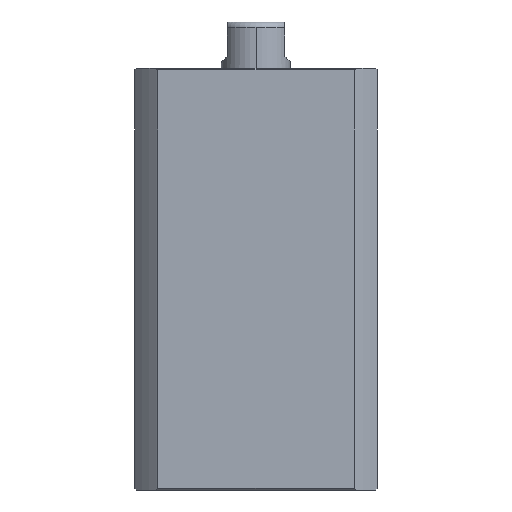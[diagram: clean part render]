
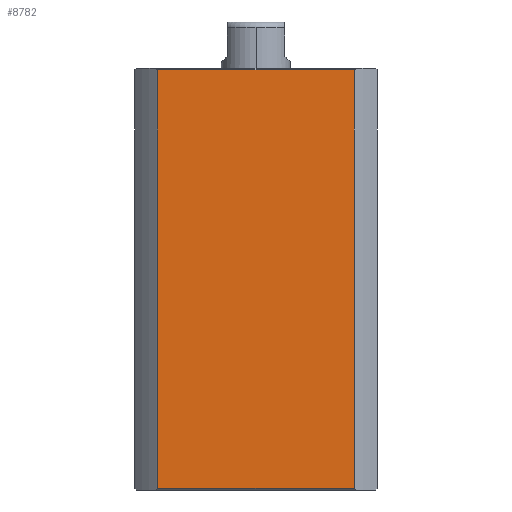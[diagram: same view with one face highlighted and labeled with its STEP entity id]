
A CAD part, left-side view. The second image highlights one B-rep face of the part: STEP entity #8782.
In plain terms, the highlighted planar face has unit normal (-1, 0, 0).
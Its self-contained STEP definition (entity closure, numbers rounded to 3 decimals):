
#115 = LINE ( 'NONE', #9373, #9804 ) ;
#299 = DIRECTION ( 'NONE',  ( 0., 1., 0. ) ) ;
#586 = CARTESIAN_POINT ( 'NONE',  ( -21., 21., 0.3 ) ) ;
#1346 = ORIENTED_EDGE ( 'NONE', *, *, #2514, .T. ) ;
#1382 = VECTOR ( 'NONE', #2469, 1000. ) ;
#1415 = EDGE_CURVE ( 'NONE', #8759, #8276, #115, .T. ) ;
#1637 = LINE ( 'NONE', #9596, #11366 ) ;
#2469 = DIRECTION ( 'NONE',  ( 0., -1., 0. ) ) ;
#2514 = EDGE_CURVE ( 'NONE', #11949, #8276, #1637, .T. ) ;
#3194 = ORIENTED_EDGE ( 'NONE', *, *, #8750, .T. ) ;
#3397 = CARTESIAN_POINT ( 'NONE',  ( -21., 16.971, 0.3 ) ) ;
#3944 = CARTESIAN_POINT ( 'NONE',  ( -21., -16.971, -227. ) ) ;
#4476 = AXIS2_PLACEMENT_3D ( 'NONE', #9042, #11006, #5362 ) ;
#5140 = VERTEX_POINT ( 'NONE', #11461 ) ;
#5362 = DIRECTION ( 'NONE',  ( 0., 1., 0. ) ) ;
#5624 = DIRECTION ( 'NONE',  ( 0., 0., 1. ) ) ;
#5836 = ORIENTED_EDGE ( 'NONE', *, *, #1415, .F. ) ;
#6111 = VECTOR ( 'NONE', #11462, 1000. ) ;
#6143 = EDGE_CURVE ( 'NONE', #11949, #5140, #8628, .T. ) ;
#6346 = FACE_OUTER_BOUND ( 'NONE', #6569, .T. ) ;
#6569 = EDGE_LOOP ( 'NONE', ( #5836, #3194, #9726, #1346 ) ) ;
#6649 = LINE ( 'NONE', #586, #1382 ) ;
#7008 = CARTESIAN_POINT ( 'NONE',  ( -21., -16.971, 72.7 ) ) ;
#8276 = VERTEX_POINT ( 'NONE', #12035 ) ;
#8628 = LINE ( 'NONE', #3944, #6111 ) ;
#8750 = EDGE_CURVE ( 'NONE', #8759, #5140, #6649, .T. ) ;
#8759 = VERTEX_POINT ( 'NONE', #3397 ) ;
#8782 = ADVANCED_FACE ( 'NONE', ( #6346 ), #10048, .F. ) ;
#9042 = CARTESIAN_POINT ( 'NONE',  ( -21., 21., 73. ) ) ;
#9373 = CARTESIAN_POINT ( 'NONE',  ( -21., 16.971, -227. ) ) ;
#9596 = CARTESIAN_POINT ( 'NONE',  ( -21., 21., 72.7 ) ) ;
#9726 = ORIENTED_EDGE ( 'NONE', *, *, #6143, .F. ) ;
#9804 = VECTOR ( 'NONE', #5624, 1000. ) ;
#10048 = PLANE ( 'NONE',  #4476 ) ;
#11006 = DIRECTION ( 'NONE',  ( 1., 0., 0. ) ) ;
#11366 = VECTOR ( 'NONE', #299, 1000. ) ;
#11461 = CARTESIAN_POINT ( 'NONE',  ( -21., -16.971, 0.3 ) ) ;
#11462 = DIRECTION ( 'NONE',  ( 0., 0., -1. ) ) ;
#11949 = VERTEX_POINT ( 'NONE', #7008 ) ;
#12035 = CARTESIAN_POINT ( 'NONE',  ( -21., 16.971, 72.7 ) ) ;
